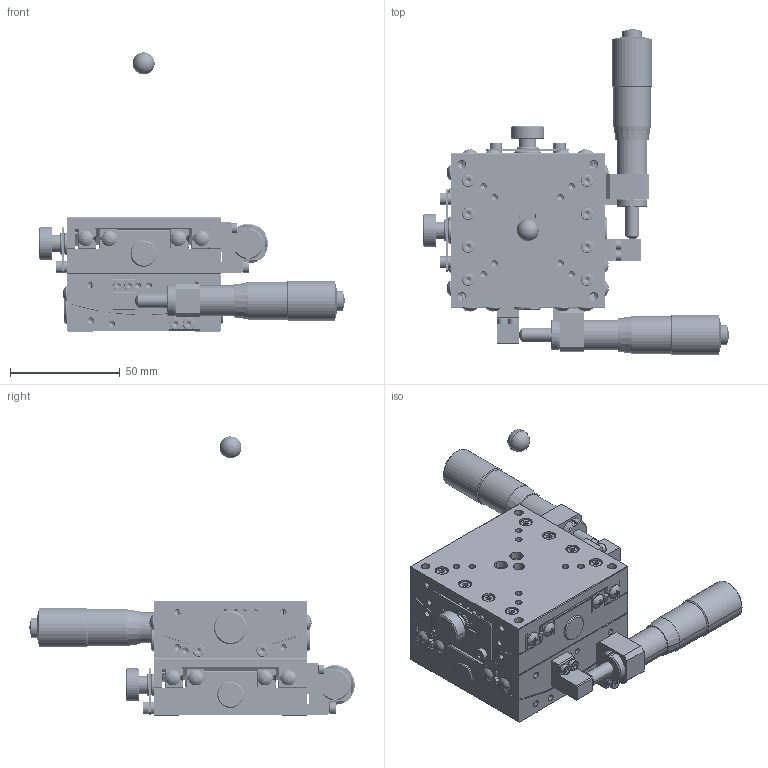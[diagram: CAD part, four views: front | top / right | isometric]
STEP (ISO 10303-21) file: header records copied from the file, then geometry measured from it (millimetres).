
FILE_DESCRIPTION (( 'STEP AP214' ), '1' );
FILE_NAME ('ST07A-S1S.STEP', '2007-01-19T01:40:57', ( ' ' ), ( ' ' ), 'SwSTEP 2.0', 'SolidWorks 2006052', '' );
FILE_SCHEMA (( 'AUTOMOTIVE_DESIGN' ));
Length unit declared in the file: millimetre
Products named in the file (9): 002600-1011(3D)-2; MICROMETERHEAD(MHN4-25T)spindle-6; 002600-1020(3D)-2; MICROMETERHEAD(MHN4-25T)spindle-7; ST07A-S1T(PL); 002590-1011(3D)-2; ST07A-S1S; ST07A-S1M(PL); ST07A-S1S-Part-1
Assembly tree (8 placements, depth 3):
  ST07A-S1S
    ST07A-S1S-Part-1
    ST07A-S1T(PL)
      002590-1011(3D)-2
      MICROMETERHEAD(MHN4-25T)spindle-7
    ST07A-S1M(PL)
      002600-1020(3D)-2
      002600-1011(3D)-2
      MICROMETERHEAD(MHN4-25T)spindle-6
Bounding box: 139 x 148 x 127 mm (x, y, z)
Volume: 255103.7 mm3; surface area: 121063.3 mm2
Topology: 6 solids, 71 shells, 3662 faces, 8563 edges, 4988 vertices
Faces by surface type: plane 1508, cylinder 1186, cone 910, sphere 42, torus 16
Entity records: 109809 total; most frequent: CARTESIAN_POINT 26165, DIRECTION 18242, ORIENTED_EDGE 16636, EDGE_CURVE 8318, AXIS2_PLACEMENT_3D 7024, VERTEX_POINT 4985, VECTOR 4194, LINE 4194
